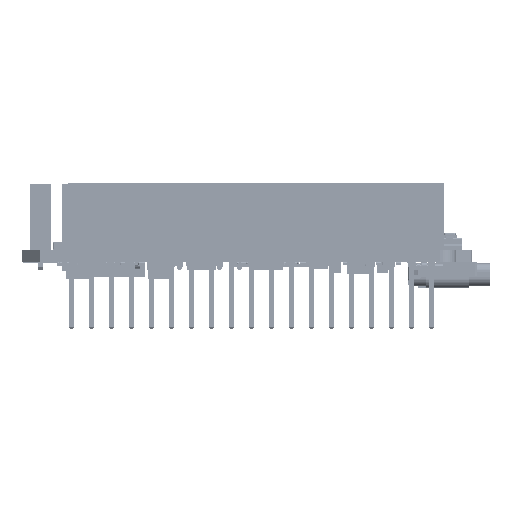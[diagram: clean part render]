
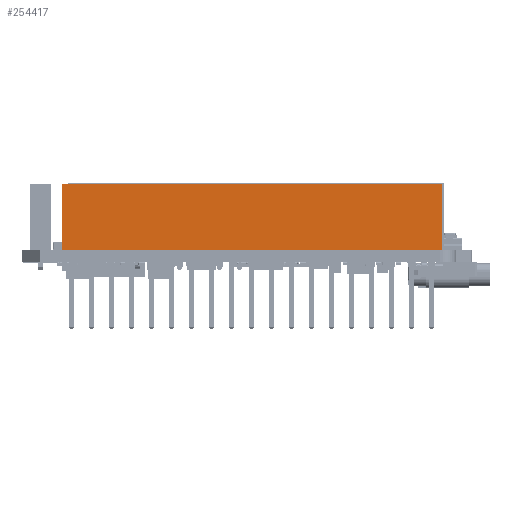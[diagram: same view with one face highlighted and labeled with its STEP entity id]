
A CAD part, left-side view. The second image highlights one B-rep face of the part: STEP entity #254417.
In plain terms, the highlighted planar face has unit normal (-1, 0, 0).
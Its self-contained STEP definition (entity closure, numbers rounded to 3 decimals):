
#254319 = EDGE_CURVE('',#254320,#254322,#254324,.T.);
#254320 = VERTEX_POINT('',#254321);
#254321 = CARTESIAN_POINT('',(-2.545,24.132,0.));
#254322 = VERTEX_POINT('',#254323);
#254323 = CARTESIAN_POINT('',(-2.545,24.132,8.38));
#254324 = LINE('',#254325,#254326);
#254325 = CARTESIAN_POINT('',(-2.545,24.132,0.));
#254326 = VECTOR('',#254327,1.);
#254327 = DIRECTION('',(0.,0.,1.));
#254392 = VERTEX_POINT('',#254393);
#254393 = CARTESIAN_POINT('',(-2.545,-24.132,8.38));
#254399 = EDGE_CURVE('',#254400,#254392,#254402,.T.);
#254400 = VERTEX_POINT('',#254401);
#254401 = CARTESIAN_POINT('',(-2.545,-24.132,0.));
#254402 = LINE('',#254403,#254404);
#254403 = CARTESIAN_POINT('',(-2.545,-24.132,0.));
#254404 = VECTOR('',#254405,1.);
#254405 = DIRECTION('',(0.,0.,1.));
#254417 = ADVANCED_FACE('',(#254418),#254434,.T.);
#254418 = FACE_BOUND('',#254419,.T.);
#254419 = EDGE_LOOP('',(#254420,#254421,#254427,#254428));
#254420 = ORIENTED_EDGE('',*,*,#254399,.T.);
#254421 = ORIENTED_EDGE('',*,*,#254422,.T.);
#254422 = EDGE_CURVE('',#254392,#254322,#254423,.T.);
#254423 = LINE('',#254424,#254425);
#254424 = CARTESIAN_POINT('',(-2.545,-24.132,8.38));
#254425 = VECTOR('',#254426,1.);
#254426 = DIRECTION('',(0.,1.,0.));
#254427 = ORIENTED_EDGE('',*,*,#254319,.F.);
#254428 = ORIENTED_EDGE('',*,*,#254429,.F.);
#254429 = EDGE_CURVE('',#254400,#254320,#254430,.T.);
#254430 = LINE('',#254431,#254432);
#254431 = CARTESIAN_POINT('',(-2.545,-24.132,0.));
#254432 = VECTOR('',#254433,1.);
#254433 = DIRECTION('',(0.,1.,0.));
#254434 = PLANE('',#254435);
#254435 = AXIS2_PLACEMENT_3D('',#254436,#254437,#254438);
#254436 = CARTESIAN_POINT('',(-2.545,-24.132,0.));
#254437 = DIRECTION('',(-1.,0.,0.));
#254438 = DIRECTION('',(0.,1.,0.));
